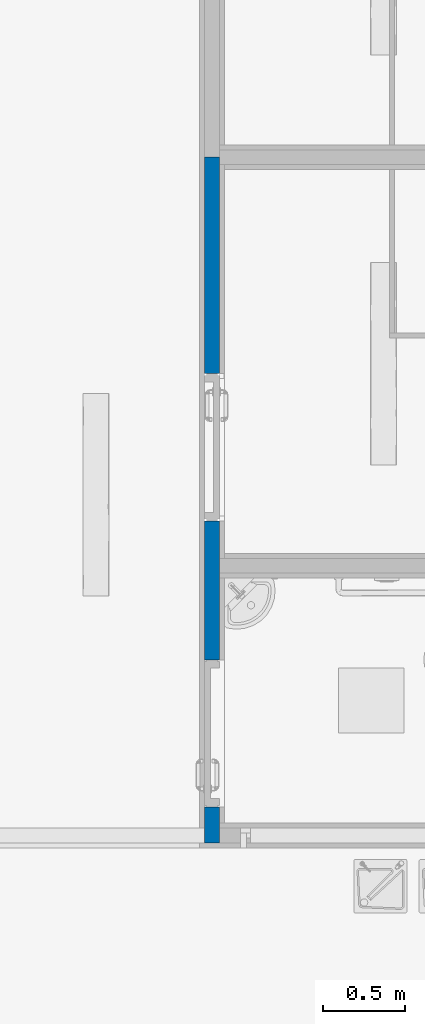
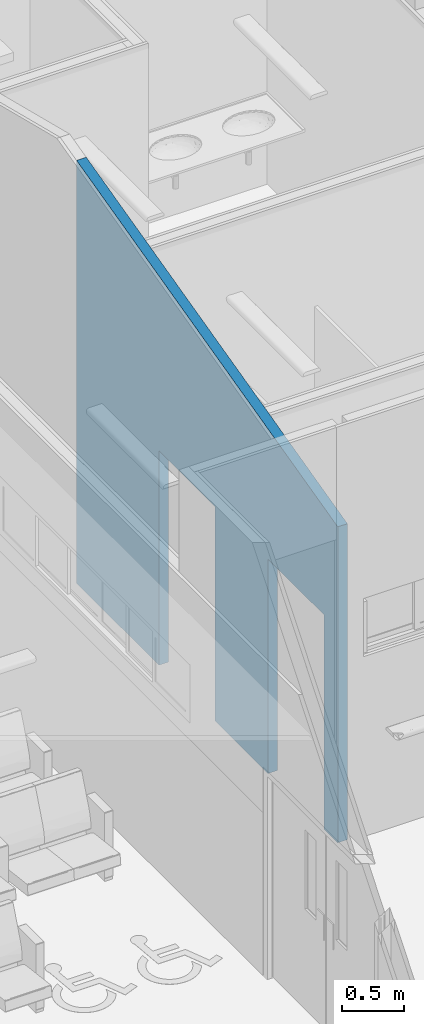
# One storey, part 29 of 155: 1 wall, 2 openings.
"""IFC2X3 building model written with IfcOpenShell, lengths in metres."""

from ifc_helpers import new_model, entity, si_unit, converted_unit, derived_unit, direction, frame, frame_2d, origin, place, context, subcontext, project, spatial, polyline, rectangle, extrude, clip, bounded_halfspace, material, layer, layer_set, layer_usage, type_object, element, save


model = new_model("IFC2X3")

# Units and contexts
model_context = context("Model", 3, precision=1e-05, world=origin(), true_north=direction((6.12303176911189e-17, 1.0)))
body_context = subcontext(model_context, "Body", "Model", "MODEL_VIEW")
ifc_project = project(units=[si_unit("LENGTHUNIT", "METRE"), si_unit("AREAUNIT", "SQUARE_METRE"), si_unit("VOLUMEUNIT", "CUBIC_METRE"), converted_unit("PLANEANGLEUNIT", "DEGREE", entity("IfcRatioMeasure", 0.0174532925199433), si_unit("PLANEANGLEUNIT", "RADIAN"), dimensions=[0, 0, 0, 0, 0, 0, 0]), si_unit("MASSUNIT", "GRAM", prefix="KILO"), derived_unit("MASSDENSITYUNIT", [(si_unit("MASSUNIT", "GRAM", prefix="KILO"), 1), (si_unit("LENGTHUNIT", "METRE"), -3)]), si_unit("TIMEUNIT", "SECOND"), si_unit("FREQUENCYUNIT", "HERTZ"), si_unit("THERMODYNAMICTEMPERATUREUNIT", "DEGREE_CELSIUS"), derived_unit("THERMALTRANSMITTANCEUNIT", [(si_unit("MASSUNIT", "GRAM", prefix="KILO"), 1), (si_unit("THERMODYNAMICTEMPERATUREUNIT", "KELVIN"), -1), (si_unit("TIMEUNIT", "SECOND"), -3)]), derived_unit("VOLUMETRICFLOWRATEUNIT", [(si_unit("LENGTHUNIT", "METRE"), 3), (si_unit("TIMEUNIT", "SECOND"), -1)]), si_unit("ELECTRICCURRENTUNIT", "AMPERE"), si_unit("ELECTRICVOLTAGEUNIT", "VOLT"), si_unit("POWERUNIT", "WATT"), si_unit("FORCEUNIT", "NEWTON", prefix="KILO"), si_unit("ILLUMINANCEUNIT", "LUX"), si_unit("LUMINOUSFLUXUNIT", "LUMEN"), si_unit("LUMINOUSINTENSITYUNIT", "CANDELA"), derived_unit("USERDEFINED", [(si_unit("MASSUNIT", "GRAM", prefix="KILO"), -1), (si_unit("LENGTHUNIT", "METRE"), -2), (si_unit("TIMEUNIT", "SECOND"), 3), (si_unit("LUMINOUSFLUXUNIT", "LUMEN"), 1)]), derived_unit("LINEARVELOCITYUNIT", [(si_unit("LENGTHUNIT", "METRE"), 1), (si_unit("TIMEUNIT", "SECOND"), -1)]), si_unit("PRESSUREUNIT", "PASCAL"), derived_unit("USERDEFINED", [(si_unit("LENGTHUNIT", "METRE"), -2), (si_unit("MASSUNIT", "GRAM", prefix="KILO"), 1), (si_unit("TIMEUNIT", "SECOND"), -2)])], contexts=[model_context])

# Site, building, storey
site_placement = place(None, frame((26.9889013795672, -17.5624287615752, 0.0)))
site = spatial("IfcSite", under=ifc_project, at=site_placement, Name="Default", CompositionType="ELEMENT")
building_placement = place(site_placement, origin())
building = spatial("IfcBuilding", under=site, at=building_placement, Name="C. C. L. Monsenhor Antônio Sampaio", CompositionType="ELEMENT")
storey_placement = place(building_placement, frame((0.0, 0.0, 1.19999999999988)))
storey = spatial("IfcBuildingStorey", under=building, at=storey_placement, Name="Nível 1.2", CompositionType="ELEMENT", Elevation=1.19999999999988)

# Wall, openings
ifc_material = material(Name="ALVENARIA")
ifc_layer = layer(ifc_material, 0.09)
ifc_layer_set = layer_set([ifc_layer], Name="Parede básica:ENucleo parede 15cm")
ifc_layer_usage = layer_usage(ifc_layer_set, "AXIS2", "NEGATIVE", 0.045)
wall_type = type_object("IfcWallType", Name="Parede básica:ENucleo parede 15cm", PredefinedType="STANDARD", material=ifc_layer_set)
wall_placement = place(storey_placement, frame((-4.49555229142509, -12.6780663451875, 0.0), z_axis=(0.0, 0.0, 1.0), x_axis=(0.0, -1.0, 0.0)))
wall = element("IfcWallStandardCase", 1, at=wall_placement, inside=storey, type_object=wall_type, material=ifc_layer_usage, Name="Parede básica:ENucleo parede 15cm", ObjectType="Parede básica:ENucleo parede 15cm", context=body_context, shape_type="Clipping", body=[
    clip(extrude(rectangle(XDim=4.19500000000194, YDim=0.0900000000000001, at=frame_2d((2.09750000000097, -1.38777878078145e-17), x_axis=(-1.0, 0.0))), origin(), (0.0, 0.0, 1.0), 4.14557764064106), bounded_halfspace(frame((0.0, -0.045, 4.14557764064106), z_axis=(0.242535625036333, 0.0, 0.970142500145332), x_axis=(0.0, 1.0, 0.0)), False, frame((0.0, -0.045, 4.14557764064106)), polyline([(0.0, 0.0), (4.19500000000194, 0.0), (4.19500000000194, 0.0900000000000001), (0.0, 0.0900000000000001), (0.0, 0.0)]))),
])
opening_1_placement = place(wall_placement, frame((1.32499999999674, -0.0449999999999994, 0.0)))
element("IfcOpeningElement", 2, at=opening_1_placement, cuts=wall, Name="Porta levantamento:90 x 211 AZUL:1", ObjectType="Opening", context=body_context, shape_type="SweptSolid", body=[
    extrude(rectangle(XDim=2.09999999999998, YDim=0.9, at=frame_2d((1.04999999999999, 0.45), x_axis=(1.0, 0.0))), frame((0.0, 0.0, 0.0), z_axis=(0.0, 1.0, 0.0), x_axis=(0.0, 0.0, 1.0)), (0.0, 0.0, 1.0), 0.09),
])
opening_2_placement = place(wall_placement, frame((3.97500000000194, 0.0449999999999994, 0.0)))
element("IfcOpeningElement", 3, at=opening_2_placement, cuts=wall, Name="Porta levantamento:90 x 211 AZUL:1", ObjectType="Opening", context=body_context, shape_type="SweptSolid", body=[
    extrude(rectangle(XDim=2.09999999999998, YDim=0.9, at=frame_2d((1.04999999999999, 0.45), x_axis=(1.0, 0.0))), frame((0.0, 0.0, 0.0), z_axis=(0.0, -1.0, 0.0), x_axis=(0.0, 0.0, 1.0)), (0.0, 0.0, 1.0), 0.09),
])

save(model, "model.ifc")
